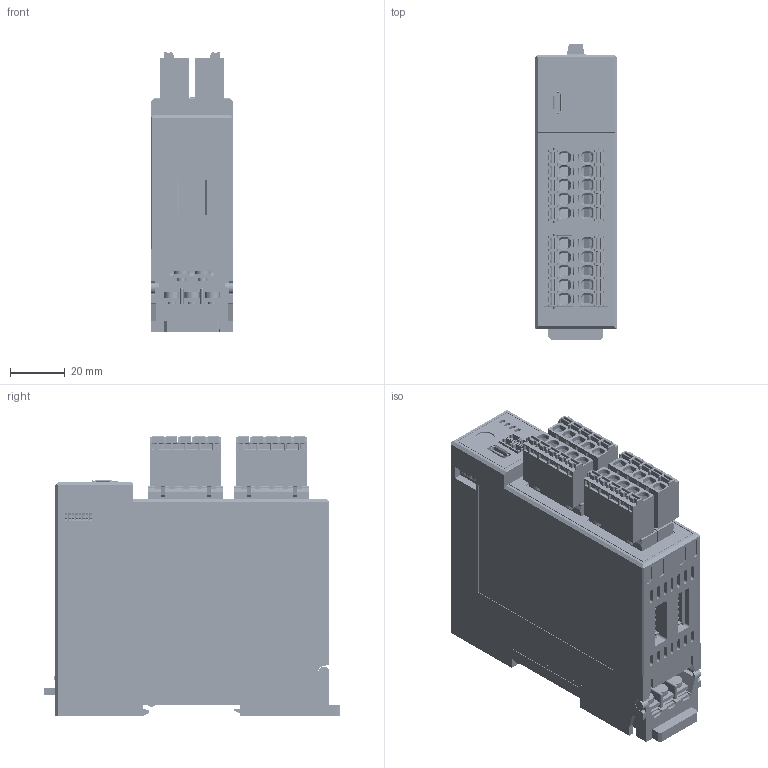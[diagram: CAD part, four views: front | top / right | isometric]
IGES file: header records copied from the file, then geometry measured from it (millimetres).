
Start section: SolidWorks IGES file using analytic representation for surfaces
Global section: file name: D:\KK\CAD_DATA\Q\Q僔儕乕僘\QTC1-R\D24-016\HP_3D\QTC1-RCC_RPC\QTC1-RCC_RPC_HP_260603.IGS; native system: SolidWorks 2025; preprocessor: SolidWorks 2025; author: kawahara; date: 260604.112101; units: millimetre
Bounding box: 29.8 x 107.85 x 102 mm (x, y, z)
Surface area: 57014.8 mm2 (no closed solid volume)
Topology: 0 solids, 0 shells, 5784 faces, 40315 edges, 40239 vertices
Faces by surface type: bspline 3677, revolution 2107
